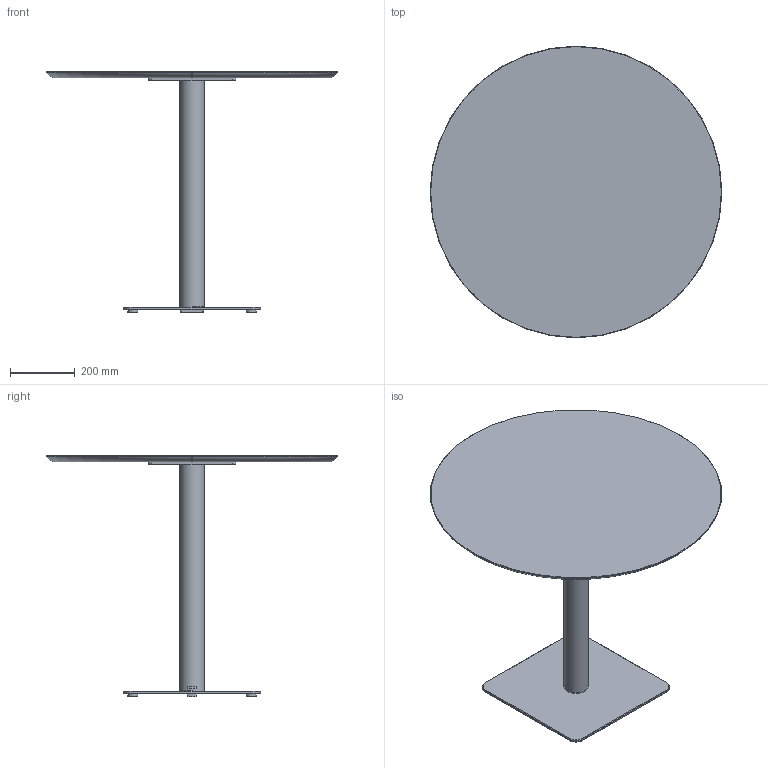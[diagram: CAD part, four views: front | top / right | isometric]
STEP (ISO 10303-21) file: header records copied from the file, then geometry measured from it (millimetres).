
FILE_DESCRIPTION( ('This file contains a STEP AP42 implementation' ,'as created by ZW3D STEP Interface translator.') ,'2;1' );
FILE_NAME( 'Henri - B_Carré - F1 - M3 - 800 x 800 x 750.stp' ,'24 912.161945', (''), ('ZWCAD Software Co.'), 'Version 1.0', 'ZW3D to STEP translator', '' );
FILE_SCHEMA(('AUTOMOTIVE_DESIGN { 1 0 10303 214 1 1 1 1 }'));
Length unit declared in the file: millimetre
Products named in the file (15): 0; PIED BISTROT PARAMETRIQUE_; COLONNE ACIER Ø76 V.02_; TUB-D076-02_; PLA-R76B-01_; CROIX ACIER 370 V.02_; CRX-X370-02_; SOCLE ACIER L 425x425 V.02_; SCL-R425-02_; PLA-R30A-01_; PLA-R30A-01; WUERTH 0276063020 Euro-screw 6.3x2 Verzinkt_; PLATEAU BISTROT PARAMETRIQUE_; insert_m6_13_; insert_m6_13
Assembly tree (22 placements, depth 3):
  0
  PIED BISTROT PARAMETRIQUE_
    COLONNE ACIER Ø76 V.02_
      TUB-D076-02_
      PLA-R76B-01_  x2
    CROIX ACIER 370 V.02_
      CRX-X370-02_
    SOCLE ACIER L 425x425 V.02_
      SCL-R425-02_
      PLA-R30A-01_
      PLA-R30A-01  x3
    WUERTH 0276063020 Euro-screw 6.3x2 Verzinkt_
    PLATEAU BISTROT PARAMETRIQUE_
      insert_m6_13_  x2
      insert_m6_13  x6
Bounding box: 900 x 900 x 744 mm (x, y, z)
Volume: 14675362.2 mm3; surface area: 2188459.3 mm2
Topology: 19 solids, 19 shells, 537 faces, 1310 edges, 822 vertices
Faces by surface type: plane 258, bspline 121, cylinder 102, cone 51, torus 5
Full cylindrical faces by diameter (mm): 4.88 x1, 6 x8, 6.3 x1, 8 x45, 12 x2, 14 x2, 30 x4, 72 x1, 76 x1
Entity records: 13362 total; most frequent: CARTESIAN_POINT 3810, ORIENTED_EDGE 1758, DIRECTION 1632, EDGE_CURVE 879, VERTEX_POINT 558, AXIS2_PLACEMENT_3D 544, VECTOR 544, LINE 544
